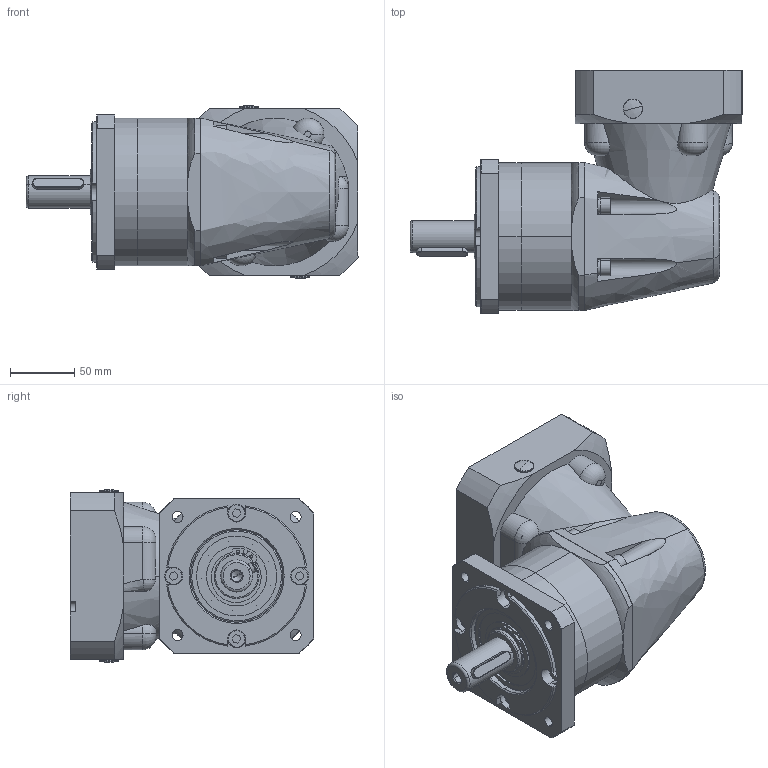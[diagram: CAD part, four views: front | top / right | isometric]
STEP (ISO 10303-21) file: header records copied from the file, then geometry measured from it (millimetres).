
FILE_DESCRIPTION (( 'STEP AP203' ), '1' );
FILE_NAME ('WPF115L1-i-P2-S2-22-58-110-145-M8.step', '2020-03-30T09:01:39', ( '个人用户' ), ( '微软中国' ), 'SwSTEP 2.0', 'SolidWorks 2018', '' );
FILE_SCHEMA (( 'CONFIG_CONTROL_DESIGN' ));
Length unit declared in the file: millimetre
Products named in the file (1): WPF115L1-i-P2-S2-22-58-110-145-M8
Bounding box: 258.5 x 189.5 x 134.6 mm (x, y, z)
Volume: 1809954.2 mm3; surface area: 420353.2 mm2
Topology: 43 solids, 43 shells, 1350 faces, 3214 edges, 2040 vertices
Faces by surface type: cylinder 451, plane 419, torus 172, sphere 150, cone 148, bspline 10
Entity records: 47779 total; most frequent: CARTESIAN_POINT 15948, DIRECTION 7002, ORIENTED_EDGE 6360, EDGE_CURVE 3180, AXIS2_PLACEMENT_3D 2926, VERTEX_POINT 2040, CIRCLE 1585, EDGE_LOOP 1568
